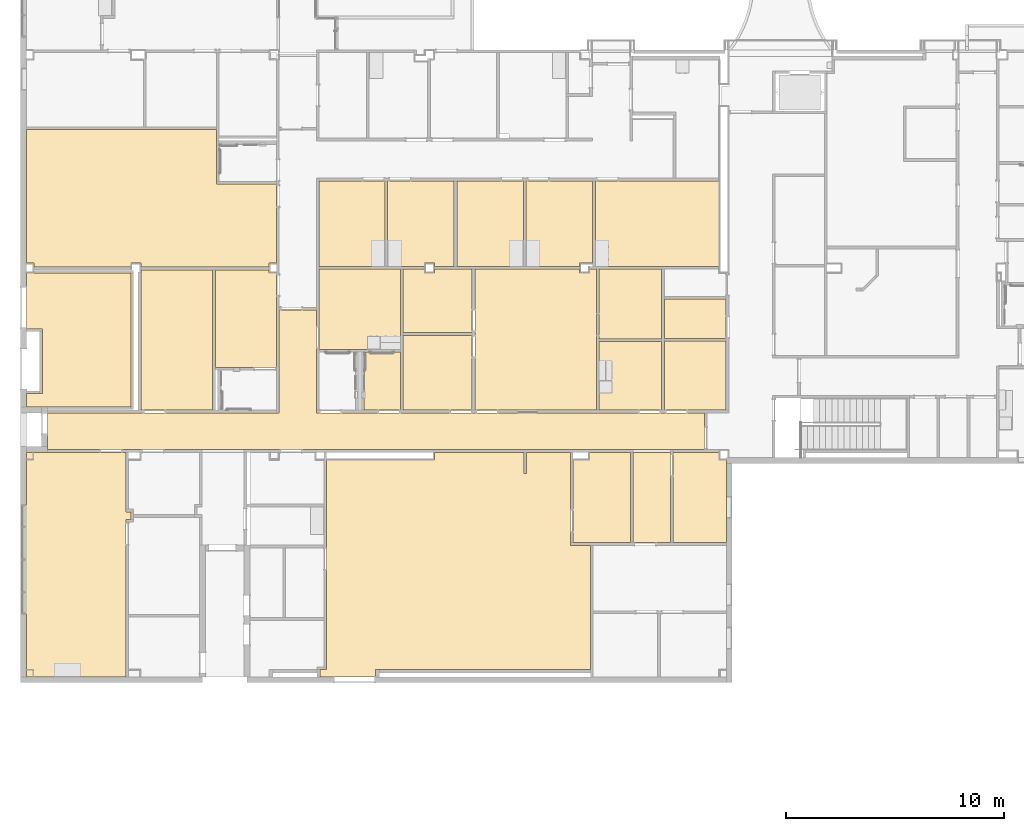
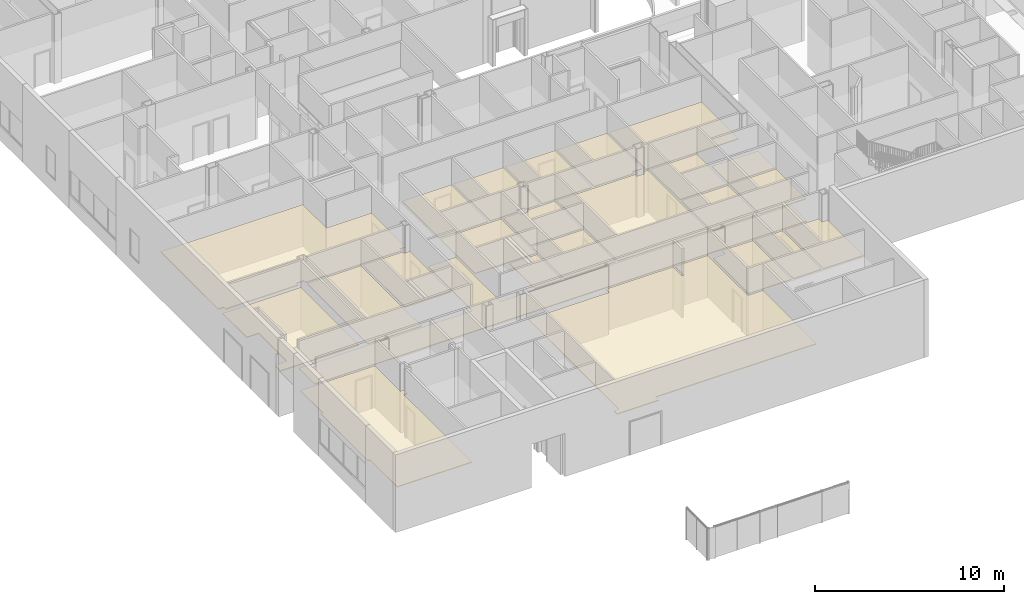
# One storey, part 48 of 82: 24 coverings.
"""IFC2X3 building model written with IfcOpenShell, lengths in metres."""

from ifc_helpers import new_model, entity, si_unit, converted_unit, origin, place, context, project, spatial, face_set, surface_model, material, layer, layer_set, layer_usage, element, save


model = new_model("IFC2X3")

# Units and contexts
model_context = context("Model", 3, precision=1e-09, world=origin())
plan_context = context("Plan", 3, precision=1e-09, world=origin())
ifc_project = project(units=[si_unit("LENGTHUNIT", "METRE"), si_unit("AREAUNIT", "SQUARE_METRE"), si_unit("VOLUMEUNIT", "CUBIC_METRE"), converted_unit("PLANEANGLEUNIT", "DEGREE", entity("IfcRatioMeasure", 0.01745329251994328), si_unit("PLANEANGLEUNIT", "RADIAN"), dimensions=[0, 0, 0, 0, 0, 0, 0]), si_unit("TIMEUNIT", "SECOND")], contexts=[model_context, plan_context])

# Site, building, storey
site_placement = place(None, origin())
site = spatial("IfcSite", under=ifc_project, at=site_placement, Name="Default", CompositionType="ELEMENT")
building_placement = place(site_placement, origin())
building = spatial("IfcBuilding", under=site, at=building_placement, CompositionType="ELEMENT")
storey_placement = place(building_placement, origin())
storey = spatial("IfcBuildingStorey", under=building, at=storey_placement, Name="First Floor", CompositionType="ELEMENT", Elevation=-3.531500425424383e-13)

# Coverings
ifc_material_1 = material(Name="Default")
ifc_layer_1 = layer(ifc_material_1, 0.03599999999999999)
ifc_material_2 = material(Name="Ceiling Tile 600 x 600")
ifc_layer_2 = layer(ifc_material_2, 0.016)
ifc_layer_set = layer_set([ifc_layer_1, ifc_layer_2], Name="Compound Ceiling:ACT 600 x 600mm Grid")
ifc_layer_usage = layer_usage(ifc_layer_set, "AXIS3", "NEGATIVE", 0.0)
covering_1_placement = place(storey_placement, origin())
element("IfcCovering", 1, at=covering_1_placement, inside=storey, material=ifc_layer_usage, Name="Compound Ceiling:ACT 600 x 600mm Grid", ObjectType="Compound Ceiling:ACT 600 x 600mm Grid", PredefinedType="CEILING", context=model_context, shape_type="SurfaceModel", body=[
    surface_model("IfcFaceBasedSurfaceModel", [(-44.02200000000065, 10.28699999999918, 2.732), (-51.04900000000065, 10.28699999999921, 2.732), (-51.04900000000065, 11.97999999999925, 2.732), (-40.43000000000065, 11.97999999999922, 2.732), (-40.43000000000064, 16.68999999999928, 2.732), (-38.72000000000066, 16.68999999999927, 2.732), (-38.72000000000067, 11.97999999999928, 2.732), (-20.95400000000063, 11.97999999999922, 2.732), (-20.95400000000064, 10.28699999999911, 2.732), (-22.44800000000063, 10.28699999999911, 2.732), (-24.28200000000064, 10.28699999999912, 2.732), (-41.97800000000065, 10.28699999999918, 2.732), (-44.02200000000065, 10.28699999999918, 2.68), (-51.04900000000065, 10.28699999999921, 2.68), (-51.04900000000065, 11.97999999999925, 2.68), (-40.43000000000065, 11.97999999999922, 2.68), (-40.43000000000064, 16.68999999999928, 2.68), (-38.72000000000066, 16.68999999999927, 2.68), (-38.72000000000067, 11.97999999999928, 2.68), (-20.95400000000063, 11.97999999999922, 2.68), (-20.95400000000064, 10.28699999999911, 2.68), (-22.44800000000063, 10.28699999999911, 2.68), (-24.28200000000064, 10.28699999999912, 2.68), (-41.97800000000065, 10.28699999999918, 2.68)], [face_set([[[0, 1, 2, 3, 4, 5, 6, 7, 8, 9, 10, 11]], [[12, 13, 14, 15, 16, 17, 18, 19, 20, 21, 22, 23]], [[11, 0, 12, 23]], [[10, 11, 23, 22]], [[9, 10, 22, 21]], [[8, 9, 21, 20]], [[7, 8, 20, 19]], [[6, 18, 19, 7]], [[5, 6, 18, 17]], [[4, 16, 17, 5]], [[3, 15, 16, 4]], [[2, 14, 15, 3]], [[1, 13, 14, 2]], [[0, 1, 13, 12]]])]),
])
covering_2_placement = place(storey_placement, origin())
element("IfcCovering", 2, at=covering_2_placement, inside=storey, material=ifc_layer_usage, Name="Compound Ceiling:ACT 600 x 600mm Grid", ObjectType="Compound Ceiling:ACT 600 x 600mm Grid", PredefinedType="CEILING", context=model_context, shape_type="SurfaceModel", body=[
    surface_model("IfcFaceBasedSurfaceModel", [(-36.01040000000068, 0.2299999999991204, 2.732), (-36.01040000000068, -0.1130000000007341, 2.732), (-38.57040000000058, -0.1130000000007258, 2.732), (-38.57040000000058, 0.2147282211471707, 2.732), (-38.25539926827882, 0.2147282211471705, 2.732), (-38.25539926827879, 9.809999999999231, 2.732), (-33.32000000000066, 9.809999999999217, 2.732), (-33.32000000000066, 10.16299999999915, 2.732), (-29.21440000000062, 10.16299999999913, 2.732), (-29.21440000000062, 9.209999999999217, 2.732), (-29.09040000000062, 9.209999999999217, 2.732), (-29.09040000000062, 10.16299999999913, 2.732), (-27.09040000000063, 10.16299999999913, 2.732), (-27.09040000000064, 5.909999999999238, 2.732), (-26.17400000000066, 5.909999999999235, 2.732), (-26.17400000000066, 0.2299999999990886, 2.732), (-36.01040000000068, 0.2299999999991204, 2.68), (-36.01040000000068, -0.1130000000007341, 2.68), (-38.57040000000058, -0.1130000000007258, 2.68), (-38.57040000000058, 0.2147282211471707, 2.68), (-38.25539926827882, 0.2147282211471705, 2.68), (-38.25539926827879, 9.809999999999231, 2.68), (-33.32000000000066, 9.809999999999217, 2.68), (-33.32000000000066, 10.16299999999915, 2.68), (-29.21440000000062, 10.16299999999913, 2.68), (-29.21440000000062, 9.209999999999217, 2.68), (-29.09040000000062, 9.209999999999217, 2.68), (-29.09040000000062, 10.16299999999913, 2.68), (-27.09040000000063, 10.16299999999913, 2.68), (-27.09040000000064, 5.909999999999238, 2.68), (-26.17400000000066, 5.909999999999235, 2.68), (-26.17400000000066, 0.229999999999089, 2.68)], [face_set([[[0, 1, 2, 3, 4, 5, 6, 7, 8, 9, 10, 11, 12, 13, 14, 15]], [[16, 17, 18, 19, 20, 21, 22, 23, 24, 25, 26, 27, 28, 29, 30, 31]], [[15, 0, 16, 31]], [[14, 15, 31, 30]], [[13, 29, 30, 14]], [[12, 13, 29, 28]], [[11, 27, 28, 12]], [[10, 26, 27, 11]], [[9, 25, 26, 10]], [[8, 9, 25, 24]], [[7, 23, 24, 8]], [[6, 22, 23, 7]], [[5, 21, 22, 6]], [[4, 20, 21, 5]], [[3, 19, 20, 4]], [[2, 18, 19, 3]], [[1, 2, 18, 17]], [[0, 1, 17, 16]]])]),
])
covering_3_placement = place(storey_placement, origin())
element("IfcCovering", 3, at=covering_3_placement, inside=storey, material=ifc_layer_usage, Name="Compound Ceiling:ACT 600 x 600mm Grid", ObjectType="Compound Ceiling:ACT 600 x 600mm Grid", PredefinedType="CEILING", context=model_context, shape_type="SurfaceModel", body=[
    surface_model("IfcFaceBasedSurfaceModel", [(-40.89000000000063, 18.52599999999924, 2.732), (-40.89000000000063, 18.37999999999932, 2.732), (-40.55400000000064, 18.37999999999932, 2.732), (-40.55400000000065, 14.0599999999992, 2.732), (-43.35400000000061, 14.05999999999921, 2.732), (-43.3540000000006, 18.52599999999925, 2.732), (-40.89000000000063, 18.52599999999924, 2.68), (-43.3540000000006, 18.52599999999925, 2.68), (-43.35400000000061, 14.05999999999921, 2.68), (-40.55400000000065, 14.0599999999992, 2.68), (-40.55400000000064, 18.37999999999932, 2.68), (-40.89000000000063, 18.37999999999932, 2.68)], [face_set([[[0, 1, 2, 3, 4, 5]], [[6, 7, 8, 9, 10, 11]], [[5, 7, 6, 0]], [[4, 8, 7, 5]], [[3, 4, 8, 9]], [[2, 3, 9, 10]], [[1, 11, 10, 2]], [[0, 1, 11, 6]]])]),
])
covering_4_placement = place(storey_placement, origin())
element("IfcCovering", 4, at=covering_4_placement, inside=storey, material=ifc_layer_usage, Name="Compound Ceiling:ACT 600 x 600mm Grid", ObjectType="Compound Ceiling:ACT 600 x 600mm Grid", PredefinedType="CEILING", context=model_context, shape_type="SurfaceModel", body=[
    surface_model("IfcFaceBasedSurfaceModel", [(-32.29000000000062, 18.68399999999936, 2.732), (-32.29000000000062, 22.60599999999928, 2.732), (-29.24400000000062, 22.60599999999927, 2.732), (-29.24400000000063, 18.68399999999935, 2.732), (-32.29000000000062, 18.68399999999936, 2.68), (-32.29000000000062, 22.60599999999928, 2.68), (-29.24400000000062, 22.60599999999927, 2.68), (-29.24400000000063, 18.68399999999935, 2.68)], [face_set([[[0, 1, 2, 3]], [[4, 5, 6, 7]], [[3, 0, 4, 7]], [[2, 3, 7, 6]], [[1, 5, 6, 2]], [[0, 4, 5, 1]]])]),
])
covering_5_placement = place(storey_placement, origin())
element("IfcCovering", 5, at=covering_5_placement, inside=storey, material=ifc_layer_usage, Name="Compound Ceiling:ACT 600 x 600mm Grid", ObjectType="Compound Ceiling:ACT 600 x 600mm Grid", PredefinedType="CEILING", context=model_context, shape_type="SurfaceModel", body=[
    surface_model("IfcFaceBasedSurfaceModel", [(-29.12000000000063, 18.68399999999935, 2.732), (-29.12000000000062, 22.60599999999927, 2.732), (-26.07400000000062, 22.60599999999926, 2.732), (-26.07400000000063, 18.83999999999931, 2.732), (-26.67000000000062, 18.83999999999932, 2.732), (-26.67000000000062, 18.68399999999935, 2.732), (-29.12000000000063, 18.68399999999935, 2.68), (-29.12000000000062, 22.60599999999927, 2.68), (-26.07400000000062, 22.60599999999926, 2.68), (-26.07400000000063, 18.83999999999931, 2.68), (-26.67000000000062, 18.83999999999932, 2.68), (-26.67000000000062, 18.68399999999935, 2.68)], [face_set([[[0, 1, 2, 3, 4, 5]], [[6, 7, 8, 9, 10, 11]], [[5, 0, 6, 11]], [[4, 5, 11, 10]], [[3, 4, 10, 9]], [[2, 3, 9, 8]], [[1, 7, 8, 2]], [[0, 6, 7, 1]]])]),
])
covering_6_placement = place(storey_placement, origin())
element("IfcCovering", 6, at=covering_6_placement, inside=storey, material=ifc_layer_usage, Name="Compound Ceiling:ACT 600 x 600mm Grid", ObjectType="Compound Ceiling:ACT 600 x 600mm Grid", PredefinedType="CEILING", context=model_context, shape_type="SurfaceModel", body=[
    surface_model("IfcFaceBasedSurfaceModel", [(-35.46000000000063, 18.68399999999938, 2.732), (-35.46000000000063, 22.6059999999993, 2.732), (-32.41400000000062, 22.60599999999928, 2.732), (-32.41400000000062, 18.68399999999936, 2.732), (-33.32000000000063, 18.68399999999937, 2.732), (-33.32000000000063, 18.83999999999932, 2.732), (-33.78000000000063, 18.83999999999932, 2.732), (-33.78000000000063, 18.68399999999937, 2.732), (-35.46000000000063, 18.68399999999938, 2.68), (-35.46000000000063, 22.6059999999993, 2.68), (-32.41400000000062, 22.60599999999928, 2.68), (-32.41400000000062, 18.68399999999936, 2.68), (-33.32000000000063, 18.68399999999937, 2.68), (-33.32000000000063, 18.83999999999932, 2.68), (-33.78000000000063, 18.83999999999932, 2.68), (-33.78000000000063, 18.68399999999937, 2.68)], [face_set([[[0, 1, 2, 3, 4, 5, 6, 7]], [[8, 9, 10, 11, 12, 13, 14, 15]], [[7, 0, 8, 15]], [[6, 7, 15, 14]], [[5, 6, 14, 13]], [[4, 12, 13, 5]], [[3, 4, 12, 11]], [[2, 3, 11, 10]], [[1, 9, 10, 2]], [[0, 8, 9, 1]]])]),
])
covering_7_placement = place(storey_placement, origin())
element("IfcCovering", 7, at=covering_7_placement, inside=storey, material=ifc_layer_usage, Name="Compound Ceiling:ACT 600 x 600mm Grid", ObjectType="Compound Ceiling:ACT 600 x 600mm Grid", PredefinedType="CEILING", context=model_context, shape_type="SurfaceModel", body=[
    surface_model("IfcFaceBasedSurfaceModel", [(-31.59400000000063, 12.10399999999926, 2.732), (-34.75000000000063, 12.10399999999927, 2.732), (-34.75000000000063, 15.52599999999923, 2.732), (-31.59400000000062, 15.52599999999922, 2.732), (-31.59400000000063, 12.10399999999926, 2.68), (-34.75000000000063, 12.10399999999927, 2.68), (-34.75000000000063, 15.52599999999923, 2.68), (-31.59400000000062, 15.52599999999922, 2.68)], [face_set([[[0, 1, 2, 3]], [[4, 5, 6, 7]], [[3, 0, 4, 7]], [[2, 6, 7, 3]], [[1, 5, 6, 2]], [[0, 1, 5, 4]]])]),
])
covering_8_placement = place(storey_placement, origin())
element("IfcCovering", 8, at=covering_8_placement, inside=storey, material=ifc_layer_usage, Name="Compound Ceiling:ACT 600 x 600mm Grid", ObjectType="Compound Ceiling:ACT 600 x 600mm Grid", PredefinedType="CEILING", context=model_context, shape_type="SurfaceModel", body=[
    surface_model("IfcFaceBasedSurfaceModel", [(-24.34400000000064, 6.03399999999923, 2.732), (-26.96640000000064, 6.033999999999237, 2.732), (-26.96640000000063, 9.809999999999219, 2.732), (-26.21000000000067, 9.809999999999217, 2.732), (-26.21000000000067, 10.16299999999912, 2.732), (-24.34400000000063, 10.16299999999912, 2.732), (-24.34400000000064, 6.03399999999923, 2.68), (-26.96640000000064, 6.033999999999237, 2.68), (-26.96640000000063, 9.809999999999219, 2.68), (-26.21000000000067, 9.809999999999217, 2.68), (-26.21000000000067, 10.16299999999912, 2.68), (-24.34400000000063, 10.16299999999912, 2.68)], [face_set([[[0, 1, 2, 3, 4, 5]], [[6, 7, 8, 9, 10, 11]], [[5, 0, 6, 11]], [[4, 10, 11, 5]], [[3, 9, 10, 4]], [[2, 8, 9, 3]], [[1, 7, 8, 2]], [[0, 1, 7, 6]]])]),
])
covering_9_placement = place(storey_placement, origin())
element("IfcCovering", 9, at=covering_9_placement, inside=storey, material=ifc_layer_usage, Name="Compound Ceiling:ACT 600 x 600mm Grid", ObjectType="Compound Ceiling:ACT 600 x 600mm Grid", PredefinedType="CEILING", context=model_context, shape_type="SurfaceModel", body=[
    surface_model("IfcFaceBasedSurfaceModel", [(-25.95000000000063, 18.68399999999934, 2.732), (-25.95000000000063, 22.60599999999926, 2.732), (-20.29000000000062, 22.60599999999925, 2.732), (-20.29000000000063, 18.68399999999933, 2.732), (-25.95000000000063, 18.68399999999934, 2.68), (-25.95000000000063, 22.60599999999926, 2.68), (-20.29000000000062, 22.60599999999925, 2.68), (-20.29000000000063, 18.68399999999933, 2.68)], [face_set([[[0, 1, 2, 3]], [[4, 5, 6, 7]], [[3, 0, 4, 7]], [[2, 3, 7, 6]], [[1, 5, 6, 2]], [[0, 4, 5, 1]]])]),
])
covering_10_placement = place(storey_placement, origin())
element("IfcCovering", 10, at=covering_10_placement, inside=storey, material=ifc_layer_usage, Name="Compound Ceiling:ACT 600 x 600mm Grid", ObjectType="Compound Ceiling:ACT 600 x 600mm Grid", PredefinedType="CEILING", context=model_context, shape_type="SurfaceModel", body=[
    surface_model("IfcFaceBasedSurfaceModel", [(-22.51000000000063, 10.16299999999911, 2.732), (-22.51000000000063, 6.033999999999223, 2.732), (-24.22000000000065, 6.033999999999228, 2.732), (-24.22000000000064, 10.16299999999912, 2.732), (-22.51000000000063, 10.16299999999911, 2.68), (-22.51000000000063, 6.033999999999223, 2.68), (-24.22000000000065, 6.033999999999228, 2.68), (-24.22000000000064, 10.16299999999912, 2.68)], [face_set([[[0, 1, 2, 3]], [[4, 5, 6, 7]], [[3, 7, 4, 0]], [[2, 6, 7, 3]], [[1, 2, 6, 5]], [[0, 1, 5, 4]]])]),
])
covering_11_placement = place(storey_placement, origin())
element("IfcCovering", 11, at=covering_11_placement, inside=storey, material=ifc_layer_usage, Name="Compound Ceiling:ACT 600 x 600mm Grid", ObjectType="Compound Ceiling:ACT 600 x 600mm Grid", PredefinedType="CEILING", context=model_context, shape_type="SurfaceModel", body=[
    surface_model("IfcFaceBasedSurfaceModel", [(-34.87400000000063, 14.8899999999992, 2.732), (-38.59600000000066, 14.88999999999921, 2.732), (-38.59600000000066, 18.55999999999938, 2.732), (-34.87400000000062, 18.55999999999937, 2.732), (-34.87400000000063, 14.8899999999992, 2.68), (-38.59600000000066, 14.88999999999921, 2.68), (-38.59600000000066, 18.55999999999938, 2.68), (-34.87400000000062, 18.55999999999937, 2.68)], [face_set([[[0, 1, 2, 3]], [[4, 5, 6, 7]], [[3, 0, 4, 7]], [[2, 6, 7, 3]], [[1, 5, 6, 2]], [[0, 1, 5, 4]]])]),
])
covering_12_placement = place(storey_placement, origin())
element("IfcCovering", 12, at=covering_12_placement, inside=storey, material=ifc_layer_usage, Name="Compound Ceiling:ACT 600 x 600mm Grid", ObjectType="Compound Ceiling:ACT 600 x 600mm Grid", PredefinedType="CEILING", context=model_context, shape_type="SurfaceModel", body=[
    surface_model("IfcFaceBasedSurfaceModel", [(-33.32000000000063, 18.37999999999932, 2.732), (-33.78000000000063, 18.37999999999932, 2.732), (-33.78000000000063, 18.55999999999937, 2.732), (-34.75000000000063, 18.55999999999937, 2.732), (-34.75000000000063, 15.64999999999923, 2.732), (-31.59400000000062, 15.64999999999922, 2.732), (-31.59400000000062, 18.55999999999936, 2.732), (-33.32000000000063, 18.55999999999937, 2.732), (-33.32000000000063, 18.37999999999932, 2.68), (-33.32000000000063, 18.55999999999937, 2.68), (-31.59400000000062, 18.55999999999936, 2.68), (-31.59400000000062, 15.64999999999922, 2.68), (-34.75000000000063, 15.64999999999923, 2.68), (-34.75000000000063, 18.55999999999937, 2.68), (-33.78000000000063, 18.55999999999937, 2.68), (-33.78000000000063, 18.37999999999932, 2.68)], [face_set([[[0, 1, 2, 3, 4, 5, 6, 7]], [[8, 9, 10, 11, 12, 13, 14, 15]], [[1, 15, 8, 0]], [[2, 1, 15, 14]], [[3, 13, 14, 2]], [[4, 12, 13, 3]], [[5, 4, 12, 11]], [[6, 5, 11, 10]], [[7, 9, 10, 6]], [[0, 8, 9, 7]]])]),
])
covering_13_placement = place(storey_placement, origin())
element("IfcCovering", 13, at=covering_13_placement, inside=storey, material=ifc_layer_usage, Name="Compound Ceiling:ACT 600 x 600mm Grid", ObjectType="Compound Ceiling:ACT 600 x 600mm Grid", PredefinedType="CEILING", context=model_context, shape_type="SurfaceModel", body=[
    surface_model("IfcFaceBasedSurfaceModel", [(-20.29000000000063, 9.809999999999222, 2.732), (-19.94700000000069, 9.80999999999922, 2.732), (-19.94700000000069, 6.033999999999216, 2.732), (-22.38600000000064, 6.033999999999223, 2.732), (-22.38600000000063, 10.16299999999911, 2.732), (-20.29000000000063, 10.1629999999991, 2.732), (-20.29000000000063, 9.809999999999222, 2.68), (-19.94700000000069, 9.80999999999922, 2.68), (-19.94700000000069, 6.033999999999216, 2.68), (-22.38600000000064, 6.033999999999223, 2.68), (-22.38600000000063, 10.16299999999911, 2.68), (-20.29000000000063, 10.1629999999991, 2.68)], [face_set([[[0, 1, 2, 3, 4, 5]], [[6, 7, 8, 9, 10, 11]], [[5, 0, 6, 11]], [[4, 10, 11, 5]], [[3, 9, 10, 4]], [[2, 3, 9, 8]], [[1, 2, 8, 7]], [[0, 6, 7, 1]]])]),
])
covering_14_placement = place(storey_placement, origin())
element("IfcCovering", 14, at=covering_14_placement, inside=storey, material=ifc_layer_usage, Name="Compound Ceiling:ACT 600 x 600mm Grid", ObjectType="Compound Ceiling:ACT 600 x 600mm Grid", PredefinedType="CEILING", context=model_context, shape_type="SurfaceModel", body=[
    surface_model("IfcFaceBasedSurfaceModel", [(-51.67000000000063, 18.83999999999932, 2.732), (-52.01300000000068, 18.83999999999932, 2.732), (-52.01300000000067, 24.95999999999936, 2.732), (-43.31000000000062, 24.95999999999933, 2.732), (-43.31000000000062, 22.45999999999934, 2.732), (-40.55400000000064, 22.45999999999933, 2.732), (-40.55400000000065, 18.83999999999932, 2.732), (-40.89000000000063, 18.83999999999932, 2.732), (-40.89000000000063, 18.64999999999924, 2.732), (-46.77000000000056, 18.64999999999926, 2.732), (-46.77000000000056, 18.83999999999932, 2.732), (-47.23000000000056, 18.83999999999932, 2.732), (-47.23000000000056, 18.64999999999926, 2.732), (-51.67000000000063, 18.64999999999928, 2.732), (-51.67000000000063, 18.83999999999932, 2.68), (-52.01300000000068, 18.83999999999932, 2.68), (-52.01300000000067, 24.95999999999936, 2.68), (-43.31000000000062, 24.95999999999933, 2.68), (-43.31000000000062, 22.45999999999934, 2.68), (-40.55400000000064, 22.45999999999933, 2.68), (-40.55400000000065, 18.83999999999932, 2.68), (-40.89000000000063, 18.83999999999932, 2.68), (-40.89000000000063, 18.64999999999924, 2.68), (-46.77000000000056, 18.64999999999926, 2.68), (-46.77000000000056, 18.83999999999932, 2.68), (-47.23000000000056, 18.83999999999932, 2.68), (-47.23000000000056, 18.64999999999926, 2.68), (-51.67000000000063, 18.64999999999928, 2.68)], [face_set([[[0, 1, 2, 3, 4, 5, 6, 7, 8, 9, 10, 11, 12, 13]], [[14, 15, 16, 17, 18, 19, 20, 21, 22, 23, 24, 25, 26, 27]], [[13, 27, 14, 0]], [[12, 13, 27, 26]], [[11, 12, 26, 25]], [[10, 11, 25, 24]], [[9, 23, 24, 10]], [[8, 9, 23, 22]], [[7, 8, 22, 21]], [[6, 7, 21, 20]], [[5, 6, 20, 19]], [[4, 18, 19, 5]], [[3, 4, 18, 17]], [[2, 16, 17, 3]], [[1, 15, 16, 2]], [[0, 1, 15, 14]]])]),
])
covering_15_placement = place(storey_placement, origin())
element("IfcCovering", 15, at=covering_15_placement, inside=storey, material=ifc_layer_usage, Name="Compound Ceiling:ACT 600 x 600mm Grid", ObjectType="Compound Ceiling:ACT 600 x 600mm Grid", PredefinedType="CEILING", context=model_context, shape_type="SurfaceModel", body=[
    surface_model("IfcFaceBasedSurfaceModel", [(-19.95400000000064, 12.10399999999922, 2.732), (-22.78600000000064, 12.10399999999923, 2.732), (-22.78600000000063, 15.26999999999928, 2.732), (-19.95400000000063, 15.26999999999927, 2.732), (-19.95400000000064, 12.10399999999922, 2.68), (-22.78600000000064, 12.10399999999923, 2.68), (-22.78600000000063, 15.26999999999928, 2.68), (-19.95400000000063, 15.26999999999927, 2.68)], [face_set([[[0, 1, 2, 3]], [[4, 5, 6, 7]], [[3, 0, 4, 7]], [[2, 6, 7, 3]], [[1, 5, 6, 2]], [[0, 1, 5, 4]]])]),
])
covering_16_placement = place(storey_placement, origin())
element("IfcCovering", 16, at=covering_16_placement, inside=storey, material=ifc_layer_usage, Name="Compound Ceiling:ACT 600 x 600mm Grid", ObjectType="Compound Ceiling:ACT 600 x 600mm Grid", PredefinedType="CEILING", context=model_context, shape_type="SurfaceModel", body=[
    surface_model("IfcFaceBasedSurfaceModel", [(-34.87400000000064, 12.10399999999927, 2.732), (-36.54500000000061, 12.10399999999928, 2.732), (-36.54500000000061, 14.76599999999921, 2.732), (-34.87400000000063, 14.7659999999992, 2.732), (-34.87400000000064, 12.10399999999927, 2.68), (-36.54500000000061, 12.10399999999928, 2.68), (-36.54500000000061, 14.76599999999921, 2.68), (-34.87400000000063, 14.7659999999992, 2.68)], [face_set([[[0, 1, 2, 3]], [[4, 5, 6, 7]], [[3, 0, 4, 7]], [[2, 6, 7, 3]], [[1, 5, 6, 2]], [[0, 1, 5, 4]]])]),
])
covering_17_placement = place(storey_placement, origin())
element("IfcCovering", 17, at=covering_17_placement, inside=storey, material=ifc_layer_usage, Name="Compound Ceiling:ACT 600 x 600mm Grid", ObjectType="Compound Ceiling:ACT 600 x 600mm Grid", PredefinedType="CEILING", context=model_context, shape_type="SurfaceModel", body=[
    surface_model("IfcFaceBasedSurfaceModel", [(-47.45000000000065, 7.089999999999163, 2.732), (-47.45000000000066, -0.1130000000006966, 2.732), (-52.01300000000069, -0.1130000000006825, 2.732), (-52.01300000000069, 2.759486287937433, 2.732), (-52.14650000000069, 2.759486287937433, 2.732), (-52.14650000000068, 7.759999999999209, 2.732), (-52.01300000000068, 7.759999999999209, 2.732), (-52.01300000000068, 10.16299999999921, 2.732), (-51.18250000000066, 10.16299999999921, 2.732), (-47.45000000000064, 10.16299999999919, 2.732), (-47.45000000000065, 7.439999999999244, 2.732), (-47.22000000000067, 7.439999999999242, 2.732), (-47.22000000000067, 7.089999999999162, 2.732), (-47.45000000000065, 7.089999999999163, 2.68), (-47.45000000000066, -0.1130000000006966, 2.68), (-52.01300000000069, -0.1130000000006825, 2.68), (-52.01300000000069, 2.759486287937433, 2.68), (-52.14650000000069, 2.759486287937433, 2.68), (-52.14650000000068, 7.759999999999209, 2.68), (-52.01300000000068, 7.759999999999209, 2.68), (-52.01300000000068, 10.16299999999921, 2.68), (-51.18250000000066, 10.16299999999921, 2.68), (-47.45000000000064, 10.16299999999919, 2.68), (-47.45000000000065, 7.439999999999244, 2.68), (-47.22000000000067, 7.439999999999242, 2.68), (-47.22000000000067, 7.089999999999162, 2.68)], [face_set([[[0, 1, 2, 3, 4, 5, 6, 7, 8, 9, 10, 11, 12]], [[13, 14, 15, 16, 17, 18, 19, 20, 21, 22, 23, 24, 25]], [[12, 0, 13, 25]], [[11, 12, 25, 24]], [[10, 23, 24, 11]], [[9, 10, 23, 22]], [[8, 21, 22, 9]], [[7, 20, 21, 8]], [[6, 19, 20, 7]], [[5, 18, 19, 6]], [[4, 17, 18, 5]], [[3, 4, 17, 16]], [[2, 15, 16, 3]], [[1, 2, 15, 14]], [[0, 1, 14, 13]]])]),
])
covering_18_placement = place(storey_placement, origin())
element("IfcCovering", 18, at=covering_18_placement, inside=storey, material=ifc_layer_usage, Name="Compound Ceiling:ACT 600 x 600mm Grid", ObjectType="Compound Ceiling:ACT 600 x 600mm Grid", PredefinedType="CEILING", context=model_context, shape_type="SurfaceModel", body=[
    surface_model("IfcFaceBasedSurfaceModel", [(-22.91000000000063, 15.23599999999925, 2.732), (-22.91000000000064, 12.10399999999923, 2.732), (-25.77600000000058, 12.10399999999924, 2.732), (-25.77600000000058, 15.23599999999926, 2.732), (-22.91000000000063, 15.23599999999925, 2.68), (-22.91000000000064, 12.10399999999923, 2.68), (-25.77600000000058, 12.10399999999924, 2.68), (-25.77600000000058, 15.23599999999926, 2.68)], [face_set([[[0, 1, 2, 3]], [[4, 5, 6, 7]], [[3, 7, 4, 0]], [[2, 6, 7, 3]], [[1, 2, 6, 5]], [[0, 1, 5, 4]]])]),
])
covering_19_placement = place(storey_placement, origin())
element("IfcCovering", 19, at=covering_19_placement, inside=storey, material=ifc_layer_usage, Name="Compound Ceiling:ACT 600 x 600mm Grid", ObjectType="Compound Ceiling:ACT 600 x 600mm Grid", PredefinedType="CEILING", context=model_context, shape_type="SurfaceModel", body=[
    surface_model("IfcFaceBasedSurfaceModel", [(-46.77000000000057, 12.10399999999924, 2.732), (-46.77000000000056, 18.52599999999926, 2.732), (-43.4780000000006, 18.52599999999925, 2.732), (-43.47800000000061, 12.10399999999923, 2.732), (-46.77000000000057, 12.10399999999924, 2.68), (-46.77000000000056, 18.52599999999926, 2.68), (-43.4780000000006, 18.52599999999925, 2.68), (-43.47800000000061, 12.10399999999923, 2.68)], [face_set([[[0, 1, 2, 3]], [[4, 5, 6, 7]], [[3, 0, 4, 7]], [[2, 3, 7, 6]], [[1, 5, 6, 2]], [[0, 4, 5, 1]]])]),
])
covering_20_placement = place(storey_placement, origin())
element("IfcCovering", 20, at=covering_20_placement, inside=storey, material=ifc_layer_usage, Name="Compound Ceiling:ACT 600 x 600mm Grid", ObjectType="Compound Ceiling:ACT 600 x 600mm Grid", PredefinedType="CEILING", context=model_context, shape_type="SurfaceModel", body=[
    surface_model("IfcFaceBasedSurfaceModel", [(-25.77600000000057, 18.55999999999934, 2.732), (-22.91000000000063, 18.55999999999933, 2.732), (-22.91000000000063, 15.35999999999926, 2.732), (-25.77600000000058, 15.35999999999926, 2.732), (-25.77600000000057, 18.55999999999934, 2.68), (-22.91000000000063, 18.55999999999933, 2.68), (-22.91000000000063, 15.35999999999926, 2.68), (-25.77600000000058, 15.35999999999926, 2.68)], [face_set([[[0, 1, 2, 3]], [[4, 5, 6, 7]], [[3, 7, 4, 0]], [[2, 3, 7, 6]], [[1, 2, 6, 5]], [[0, 4, 5, 1]]])]),
])
covering_21_placement = place(storey_placement, origin())
element("IfcCovering", 21, at=covering_21_placement, inside=storey, material=ifc_layer_usage, Name="Compound Ceiling:ACT 600 x 600mm Grid", ObjectType="Compound Ceiling:ACT 600 x 600mm Grid", PredefinedType="CEILING", context=model_context, shape_type="SurfaceModel", body=[
    surface_model("IfcFaceBasedSurfaceModel", [(-22.78600000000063, 15.39399999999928, 2.732), (-22.78600000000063, 17.18999999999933, 2.732), (-19.95400000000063, 17.18999999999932, 2.732), (-19.95400000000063, 15.39399999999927, 2.732), (-22.78600000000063, 15.39399999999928, 2.68), (-22.78600000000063, 17.18999999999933, 2.68), (-19.95400000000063, 17.18999999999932, 2.68), (-19.95400000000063, 15.39399999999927, 2.68)], [face_set([[[0, 1, 2, 3]], [[4, 5, 6, 7]], [[3, 0, 4, 7]], [[2, 3, 7, 6]], [[1, 5, 6, 2]], [[0, 4, 5, 1]]])]),
])
covering_22_placement = place(storey_placement, origin())
element("IfcCovering", 22, at=covering_22_placement, inside=storey, material=ifc_layer_usage, Name="Compound Ceiling:ACT 600 x 600mm Grid", ObjectType="Compound Ceiling:ACT 600 x 600mm Grid", PredefinedType="CEILING", context=model_context, shape_type="SurfaceModel", body=[
    surface_model("IfcFaceBasedSurfaceModel", [(-47.23000000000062, 12.24699999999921, 2.732), (-51.18250000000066, 12.24699999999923, 2.732), (-52.01300000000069, 12.24699999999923, 2.732), (-52.01300000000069, 12.85999999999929, 2.732), (-51.28000000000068, 12.85999999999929, 2.732), (-51.28000000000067, 15.8297999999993, 2.732), (-52.01300000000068, 15.8297999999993, 2.732), (-52.01300000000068, 18.37999999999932, 2.732), (-47.2300000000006, 18.37999999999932, 2.732), (-47.23000000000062, 12.24699999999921, 2.68), (-51.18250000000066, 12.24699999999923, 2.68), (-52.01300000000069, 12.24699999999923, 2.68), (-52.01300000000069, 12.85999999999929, 2.68), (-51.28000000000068, 12.85999999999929, 2.68), (-51.28000000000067, 15.8297999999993, 2.68), (-52.01300000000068, 15.8297999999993, 2.68), (-52.01300000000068, 18.37999999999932, 2.68), (-47.2300000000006, 18.37999999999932, 2.68)], [face_set([[[0, 1, 2, 3, 4, 5, 6, 7, 8]], [[9, 10, 11, 12, 13, 14, 15, 16, 17]], [[8, 0, 9, 17]], [[7, 16, 17, 8]], [[6, 15, 16, 7]], [[5, 6, 15, 14]], [[4, 13, 14, 5]], [[3, 12, 13, 4]], [[2, 11, 12, 3]], [[1, 2, 11, 10]], [[0, 1, 10, 9]]])]),
])
covering_23_placement = place(storey_placement, origin())
element("IfcCovering", 23, at=covering_23_placement, inside=storey, material=ifc_layer_usage, Name="Compound Ceiling:ACT 600 x 600mm Grid", ObjectType="Compound Ceiling:ACT 600 x 600mm Grid", PredefinedType="CEILING", context=model_context, shape_type="SurfaceModel", body=[
    surface_model("IfcFaceBasedSurfaceModel", [(-38.59600000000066, 18.68399999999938, 2.732), (-38.59600000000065, 22.60599999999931, 2.732), (-35.58400000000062, 22.6059999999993, 2.732), (-35.58400000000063, 18.68399999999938, 2.732), (-38.59600000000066, 18.68399999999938, 2.68), (-38.59600000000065, 22.60599999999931, 2.68), (-35.58400000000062, 22.6059999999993, 2.68), (-35.58400000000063, 18.68399999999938, 2.68)], [face_set([[[0, 1, 2, 3]], [[4, 5, 6, 7]], [[3, 0, 4, 7]], [[2, 3, 7, 6]], [[1, 5, 6, 2]], [[0, 4, 5, 1]]])]),
])
covering_24_placement = place(storey_placement, origin())
element("IfcCovering", 24, at=covering_24_placement, inside=storey, material=ifc_layer_usage, Name="Compound Ceiling:ACT 600 x 600mm Grid", ObjectType="Compound Ceiling:ACT 600 x 600mm Grid", PredefinedType="CEILING", context=model_context, shape_type="SurfaceModel", body=[
    surface_model("IfcFaceBasedSurfaceModel", [(-25.90000000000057, 18.55999999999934, 2.732), (-25.90000000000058, 12.10399999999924, 2.732), (-31.47000000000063, 12.10399999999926, 2.732), (-31.47000000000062, 18.55999999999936, 2.732), (-26.67000000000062, 18.55999999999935, 2.732), (-26.67000000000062, 18.37999999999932, 2.732), (-26.21000000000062, 18.37999999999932, 2.732), (-26.21000000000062, 18.55999999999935, 2.732), (-25.90000000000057, 18.55999999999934, 2.68), (-25.90000000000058, 12.10399999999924, 2.68), (-31.47000000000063, 12.10399999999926, 2.68), (-31.47000000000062, 18.55999999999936, 2.68), (-26.67000000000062, 18.55999999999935, 2.68), (-26.67000000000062, 18.37999999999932, 2.68), (-26.21000000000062, 18.37999999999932, 2.68), (-26.21000000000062, 18.55999999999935, 2.68)], [face_set([[[0, 1, 2, 3, 4, 5, 6, 7]], [[8, 9, 10, 11, 12, 13, 14, 15]], [[7, 15, 8, 0]], [[6, 14, 15, 7]], [[5, 13, 14, 6]], [[4, 5, 13, 12]], [[3, 11, 12, 4]], [[2, 10, 11, 3]], [[1, 2, 10, 9]], [[0, 1, 9, 8]]])]),
])

save(model, "model.ifc")
